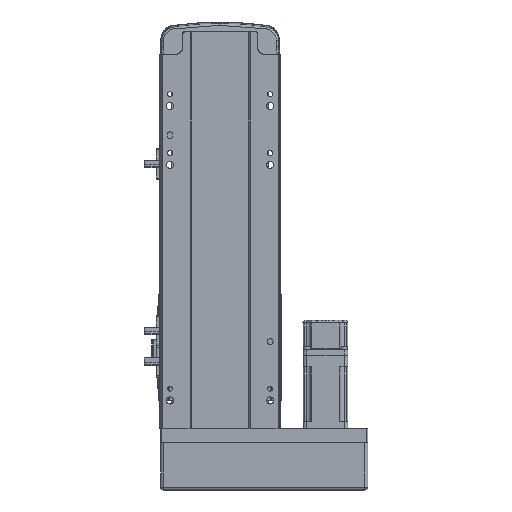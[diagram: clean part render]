
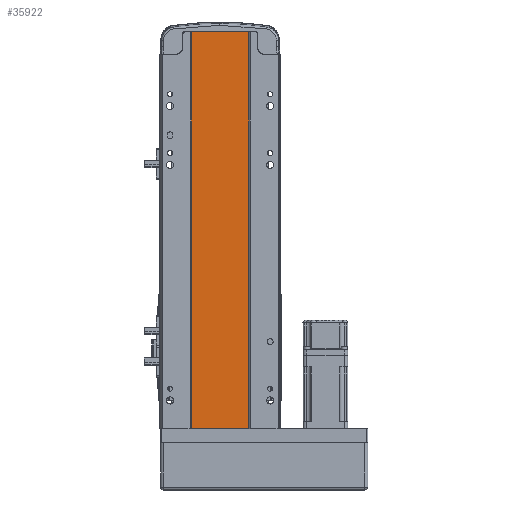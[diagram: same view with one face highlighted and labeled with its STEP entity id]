
A CAD part, front view. The second image highlights one B-rep face of the part: STEP entity #35922.
In plain terms, the highlighted planar face has unit normal (0, -1, 0).
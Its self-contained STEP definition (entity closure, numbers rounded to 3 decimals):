
#747 = DIRECTION ( 'NONE',  ( 0., 1., 0. ) ) ;
#1990 = CARTESIAN_POINT ( 'NONE',  ( 24.5, 2., 337. ) ) ;
#4127 = VERTEX_POINT ( 'NONE', #28765 ) ;
#5493 = DIRECTION ( 'NONE',  ( 0., 0., 1. ) ) ;
#5930 = DIRECTION ( 'NONE',  ( 0., 0., -1. ) ) ;
#9375 = EDGE_CURVE ( 'NONE', #19055, #54011, #15031, .T. ) ;
#11673 = EDGE_CURVE ( 'NONE', #39664, #4127, #38752, .T. ) ;
#12464 = LINE ( 'NONE', #16295, #26133 ) ;
#12904 = AXIS2_PLACEMENT_3D ( 'NONE', #49021, #747, #5493 ) ;
#15031 = LINE ( 'NONE', #48144, #51210 ) ;
#15494 = VECTOR ( 'NONE', #30639, 1000. ) ;
#16295 = CARTESIAN_POINT ( 'NONE',  ( -24.5, 2., 337. ) ) ;
#19055 = VERTEX_POINT ( 'NONE', #39572 ) ;
#20070 = EDGE_LOOP ( 'NONE', ( #51003, #49768, #29279, #28603 ) ) ;
#21024 = LINE ( 'NONE', #47146, #53857 ) ;
#21062 = CARTESIAN_POINT ( 'NONE',  ( 24.5, 2., 337. ) ) ;
#21771 = EDGE_CURVE ( 'NONE', #19055, #39664, #12464, .T. ) ;
#26133 = VECTOR ( 'NONE', #55057, 1000. ) ;
#28603 = ORIENTED_EDGE ( 'NONE', *, *, #9375, .T. ) ;
#28765 = CARTESIAN_POINT ( 'NONE',  ( 24.5, 2., 0. ) ) ;
#29279 = ORIENTED_EDGE ( 'NONE', *, *, #21771, .F. ) ;
#29575 = DIRECTION ( 'NONE',  ( 1., 0., 0. ) ) ;
#30639 = DIRECTION ( 'NONE',  ( 0., 0., -1. ) ) ;
#31701 = PLANE ( 'NONE',  #12904 ) ;
#35922 = ADVANCED_FACE ( 'NONE', ( #52025 ), #31701, .F. ) ;
#38752 = LINE ( 'NONE', #21062, #15494 ) ;
#39572 = CARTESIAN_POINT ( 'NONE',  ( -24.5, 2., 337. ) ) ;
#39664 = VERTEX_POINT ( 'NONE', #1990 ) ;
#41348 = CARTESIAN_POINT ( 'NONE',  ( -24.5, 2., 0. ) ) ;
#47146 = CARTESIAN_POINT ( 'NONE',  ( 0., 2., 0. ) ) ;
#48144 = CARTESIAN_POINT ( 'NONE',  ( -24.5, 2., 337. ) ) ;
#49021 = CARTESIAN_POINT ( 'NONE',  ( 0., 2., 337. ) ) ;
#49768 = ORIENTED_EDGE ( 'NONE', *, *, #11673, .F. ) ;
#51003 = ORIENTED_EDGE ( 'NONE', *, *, #55465, .T. ) ;
#51210 = VECTOR ( 'NONE', #5930, 1000. ) ;
#52025 = FACE_OUTER_BOUND ( 'NONE', #20070, .T. ) ;
#53857 = VECTOR ( 'NONE', #29575, 1000. ) ;
#54011 = VERTEX_POINT ( 'NONE', #41348 ) ;
#55057 = DIRECTION ( 'NONE',  ( 1., 0., 0. ) ) ;
#55465 = EDGE_CURVE ( 'NONE', #54011, #4127, #21024, .T. ) ;
